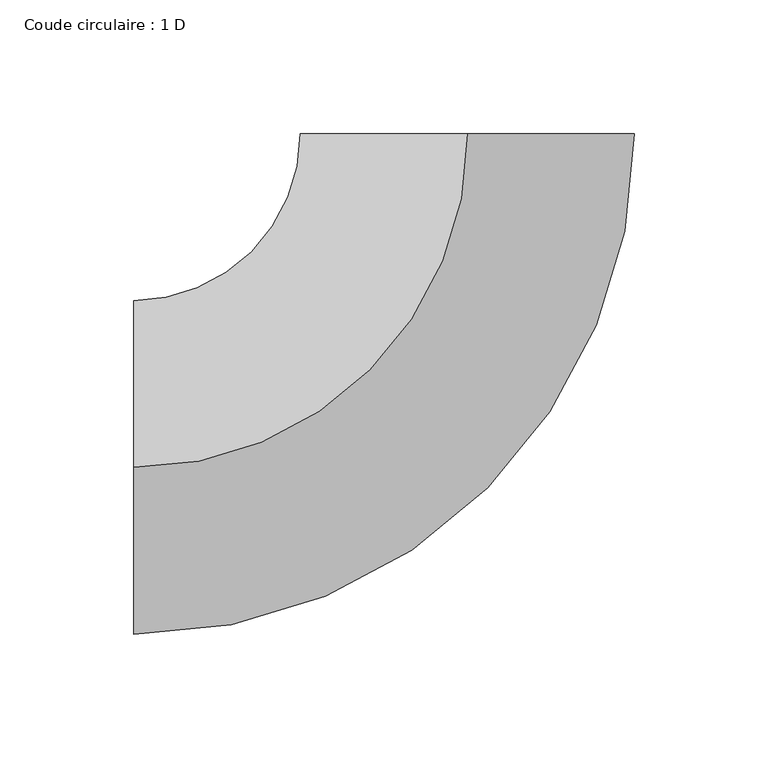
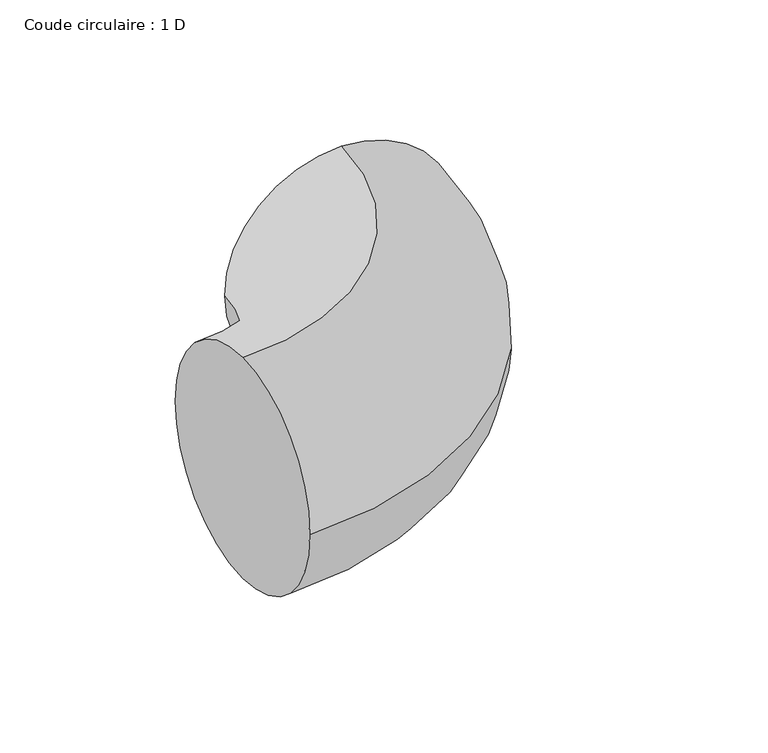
"""IFC4 building model written with IfcOpenShell, lengths in millimetres: duct fitting geometry, Coude circulaire : 1 D."""

import ifcopenshell
import ifcopenshell.guid

model = None  # the IFC model being written
_history = None  # IfcOwnerHistory: only IFC2X3 demands one
_inside = {}  # id of a spatial element -> (the spatial element, [elements in it])
_under = {}  # id of a project, library or spatial element -> (it, [spatial elements below it])
_declared = {}  # id of a project -> (the project, [libraries it declares])
_typed = {}  # id of a type object -> (the type object, [elements of that type])
_made_of = {}  # id of a material, layer set ... -> (it, [elements and type objects made of it])


def new_model(schema):
    """Start an empty IFC model of exactly this schema.

    Asked for "IFC4X3", IfcOpenShell would pick the latest addendum, in which some entities
    have other attributes; the version numbers below select the first issue.
    IFC2X3 requires an IfcOwnerHistory on every rooted entity: one is made here for all.
    """
    global model, _history
    if schema == "IFC4X3":
        model = ifcopenshell.file(schema_version=(4, 3, 0, 0))
    else:
        model = ifcopenshell.file(schema=schema)
    _inside.clear()
    _under.clear()
    _declared.clear()
    _typed.clear()
    _made_of.clear()
    _history = None
    if model.schema == "IFC2X3":
        org = make("IfcOrganization", Name="unknown")
        user = make(
            "IfcPersonAndOrganization",
            ThePerson=make("IfcPerson", FamilyName="unknown"),
            TheOrganization=org,
        )
        app = make(
            "IfcApplication",
            ApplicationDeveloper=org,
            Version="unknown",
            ApplicationFullName="unknown",
            ApplicationIdentifier="unknown",
        )
        _history = make(
            "IfcOwnerHistory",
            OwningUser=user,
            OwningApplication=app,
            ChangeAction="ADDED",
            CreationDate=0,
        )
    return model


def make(cls, **values):
    """One entity of the class cls with the attributes given. An attribute that is None is left unset."""
    return model.create_entity(
        cls, **{name: value for name, value in values.items() if value is not None}
    )


def rooted(cls, **values):
    """An entity with a GlobalId (a new one), such as an element, a storey or a relation."""
    return make(cls, GlobalId=ifcopenshell.guid.new(), OwnerHistory=_history, **values)


def si_unit(unit_type, name, prefix=None):
    """IfcSIUnit, for example si_unit("LENGTHUNIT", "METRE", prefix="MILLI")."""
    return make("IfcSIUnit", UnitType=unit_type, Prefix=prefix, Name=name)


def assignment(units):
    """IfcUnitAssignment: the units of a project."""
    return None if units is None else make("IfcUnitAssignment", Units=units)


def point(xyz):
    """IfcCartesianPoint."""
    return None if xyz is None else make("IfcCartesianPoint", Coordinates=xyz)


def direction(xyz):
    """IfcDirection."""
    return None if xyz is None else make("IfcDirection", DirectionRatios=xyz)


def frame(location, z_axis=None, x_axis=None):
    """IfcAxis2Placement3D, a coordinate frame: its origin and axes. An axis left out is left unset."""
    return make(
        "IfcAxis2Placement3D",
        Location=point(location),
        Axis=direction(z_axis),
        RefDirection=direction(x_axis),
    )


def origin():
    """The frame at (0, 0, 0) with its axes left unset."""
    return frame((0.0, 0.0, 0.0))


def place(relative_to, where):
    """IfcLocalPlacement: puts the frame where relative to a parent placement (None: the world)."""
    return make(
        "IfcLocalPlacement", PlacementRelTo=relative_to, RelativePlacement=where
    )


def context(
    kind, dimensions, precision=None, world=None, true_north=None, identifier=None
):
    """IfcGeometricRepresentationContext, for example the 3D "Model" context."""
    return make(
        "IfcGeometricRepresentationContext",
        ContextIdentifier=identifier,
        ContextType=kind,
        CoordinateSpaceDimension=dimensions,
        Precision=precision,
        WorldCoordinateSystem=world,
        TrueNorth=true_north,
    )


def project(units=None, contexts=None):
    """IfcProject with its units and contexts."""
    return rooted(
        "IfcProject",
        Name="project",
        RepresentationContexts=contexts,
        UnitsInContext=assignment(units),
    )


def spatial(cls, under=None, at=None, **own):
    """A site, building, storey or space (cls), placed at a placement, below another one or the project."""
    s = rooted(cls, ObjectPlacement=at, **own)
    if under is not None:
        _under.setdefault(under.id(), (under, []))[1].append(s)
    return s


def circle_curve(where, radius):
    """IfcCircle in the frame where."""
    return make("IfcCircle", Position=where, Radius=radius)


def ellipse_curve(where, semi_axis1, semi_axis2):
    """IfcEllipse in the frame where."""
    return make(
        "IfcEllipse", Position=where, SemiAxis1=semi_axis1, SemiAxis2=semi_axis2
    )


def trimmed(basis, trim1, trim2, sense, master):
    """IfcTrimmedCurve: the piece of a basis curve between two trims."""
    return make(
        "IfcTrimmedCurve",
        BasisCurve=basis,
        Trim1=trim1,
        Trim2=trim2,
        SenseAgreement=sense,
        MasterRepresentation=master,
    )


def shape(context_of_items, identifier, shape_type, items):
    """IfcShapeRepresentation: the items that make up one representation, for example the "Body"."""
    return make(
        "IfcShapeRepresentation",
        ContextOfItems=context_of_items,
        RepresentationIdentifier=identifier,
        RepresentationType=shape_type,
        Items=items,
    )


def source(mapping_origin, context_of_items, identifier, shape_type, items):
    """IfcRepresentationMap: a shape defined once, which mapped items show again and again."""
    return make(
        "IfcRepresentationMap",
        MappingOrigin=mapping_origin,
        MappedRepresentation=shape(context_of_items, identifier, shape_type, items),
    )


def transform(
    local_origin,
    x_axis=None,
    y_axis=None,
    z_axis=None,
    scale=None,
    scale2=None,
    scale3=None,
    uniform=True,
):
    """IfcCartesianTransformationOperator3D, or its non-uniform kind. x_axis, y_axis, z_axis: its Axis1, 2, 3."""
    if uniform:
        return make(
            "IfcCartesianTransformationOperator3D",
            Axis1=direction(x_axis),
            Axis2=direction(y_axis),
            LocalOrigin=point(local_origin),
            Scale=scale,
            Axis3=direction(z_axis),
        )
    return make(
        "IfcCartesianTransformationOperator3DnonUniform",
        Axis1=direction(x_axis),
        Axis2=direction(y_axis),
        LocalOrigin=point(local_origin),
        Scale=scale,
        Axis3=direction(z_axis),
        Scale2=scale2,
        Scale3=scale3,
    )


def mapped(mapping_source, mapping_target):
    """IfcMappedItem: shows the shape of a source again, moved by a transform."""
    return make(
        "IfcMappedItem", MappingSource=mapping_source, MappingTarget=mapping_target
    )


def made_of(thing, what):
    """Note that an element or type object is made of a material, layer set ...; save() writes the relation."""
    if what is not None:
        _made_of.setdefault(what.id(), (what, []))[1].append(thing)
    return thing


def element(
    cls,
    number,
    at=None,
    inside=None,
    cuts=None,
    type_object=None,
    material=None,
    context=None,
    identifier="Body",
    shape_type=None,
    held_by="IfcProductDefinitionShape",
    body=None,
    shapes=None,
    **own,
):
    """One element of the class cls, such as IfcWall. Its Tag is "e" and its number.

    at: its placement. inside: the storey or other place that contains it. cuts: it is an
    opening in that element (IfcRelVoidsElement). A single representation is given by context,
    identifier, shape_type and body (its items); several are given by shapes. held_by: the class
    of the entity that holds the representations. save() writes the other relations.
    """
    e = rooted(cls, Tag="e%d" % number, ObjectPlacement=at, **own)
    if body is not None:
        shapes = [shape(context, identifier, shape_type, body)]
    if shapes is not None:
        e.Representation = make(held_by, Representations=shapes)
    if inside is not None:
        _inside.setdefault(inside.id(), (inside, []))[1].append(e)
    if cuts is not None:
        rooted(
            "IfcRelVoidsElement", RelatingBuildingElement=cuts, RelatedOpeningElement=e
        )
    if type_object is not None:
        _typed.setdefault(type_object.id(), (type_object, []))[1].append(e)
    return made_of(e, material)


def aggregate(whole, parts):
    """IfcRelAggregates: a whole, such as a stair, and the parts it consists of."""
    return rooted("IfcRelAggregates", RelatingObject=whole, RelatedObjects=parts)


def save(model, path):
    """Write the relations noted so far, then the file.

    IfcRelAggregates (storeys below a building ...), IfcRelContainedInSpatialStructure (elements
    in a storey), IfcRelDefinesByType, IfcRelAssociatesMaterial and IfcRelDeclares: one each for
    every whole, place, type object, material and project.
    """
    for whole, parts in _under.values():
        aggregate(whole, parts)
    for where, things in _inside.values():
        rooted(
            "IfcRelContainedInSpatialStructure",
            RelatedElements=things,
            RelatingStructure=where,
        )
    for kind, things in _typed.values():
        rooted("IfcRelDefinesByType", RelatedObjects=things, RelatingType=kind)
    for what, things in _made_of.values():
        rooted("IfcRelAssociatesMaterial", RelatedObjects=things, RelatingMaterial=what)
    for by, libraries in _declared.values():
        rooted("IfcRelDeclares", RelatingContext=by, RelatedDefinitions=libraries)
    model.write(path)


def plane_surface(at):
    """IfcPlane: the flat surface through the origin of the frame at, square to its z axis."""
    return make("IfcPlane", Position=at)


def revolved_surface(curve, axis_point, axis_direction):
    """IfcSurfaceOfRevolution: the curve turned about the line through axis_point along axis_direction."""
    return make(
        "IfcSurfaceOfRevolution",
        SweptCurve=make("IfcArbitraryOpenProfileDef", ProfileType="CURVE", Curve=curve),
        AxisPosition=make("IfcAxis1Placement", Location=point(axis_point), Axis=direction(axis_direction)),
    )


def advanced_brep(points, edges, surfaces, faces):
    """IfcAdvancedBrep: a solid bounded by faces that lie on surfaces and meet in shared edges.

    An edge is (start, end): straight between two places in points (the first is 0);
    or (start, end, curve); or (start, end, curve, False) where it runs against its curve.
    A face is (place in surfaces, loops), or (place, loops, False) where it looks against
    its surface's normal. A loop lists edges by number (the first is 1), with a minus sign
    where the edge is run from its end to its start. The first loop is the outer one.
    """
    corners = [point(p) for p in points]
    vertices = [make("IfcVertexPoint", VertexGeometry=c) for c in corners]
    made = []
    for start, end, *more in edges:
        made.append(
            make(
                "IfcEdgeCurve",
                EdgeStart=vertices[start],
                EdgeEnd=vertices[end],
                EdgeGeometry=more[0] if more else make("IfcPolyline", Points=[corners[start], corners[end]]),
                SameSense=more[1] if len(more) > 1 else True,
            )
        )
    hull = []
    for where, loops, *sense in faces:
        bounds = []
        for j, loop in enumerate(loops):
            ring = [make("IfcOrientedEdge", EdgeElement=made[abs(k) - 1], Orientation=k > 0) for k in loop]
            bounds.append(
                make(
                    "IfcFaceOuterBound" if j == 0 else "IfcFaceBound",
                    Bound=make("IfcEdgeLoop", EdgeList=ring),
                    Orientation=True,
                )
            )
        hull.append(make("IfcAdvancedFace", Bounds=bounds, FaceSurface=surfaces[where], SameSense=sense[0] if sense else True))
    return make("IfcAdvancedBrep", Outer=make("IfcClosedShell", CfsFaces=hull))


def coude_circulaire_1_d_f5cf0ac1(model_context):
    return source(origin(), model_context, "Body", "AdvancedBrep", [
        advanced_brep(
        [(-125.0, 0.0, 62.5), (-125.0, 62.5, 0.0), (-125.0, 0.0, -62.5), (-125.0, -62.5, 0.0), (0.0, 125.0, 62.5), (62.5, 125.0, 0.0), (0.0, 125.0, -62.5), (-62.5, 125.0, 0.0)],
        [
            (0, 1, circle_curve(frame((-125.0, 0.0, 0.0), z_axis=(-1.0, 0.0, 0.0), x_axis=(0.0, 1.0, 0.0)), 62.5)),
            (1, 2, circle_curve(frame((-125.0, 0.0, 0.0), z_axis=(-1.0, 0.0, 0.0), x_axis=(0.0, 1.0, 0.0)), 62.5)),
            (2, 3, circle_curve(frame((-125.0, 0.0, 0.0), z_axis=(-1.0, 0.0, 0.0), x_axis=(0.0, 1.0, 0.0)), 62.5)),
            (3, 0, circle_curve(frame((-125.0, 0.0, 0.0), z_axis=(-1.0, 0.0, 0.0), x_axis=(0.0, 1.0, 0.0)), 62.5)),
            (4, 5, circle_curve(frame((0.0, 125.0, 0.0), z_axis=(0.0, 1.0, 0.0), x_axis=(-1.0, 0.0, 0.0)), 62.5)),
            (5, 6, circle_curve(frame((0.0, 125.0, 0.0), z_axis=(0.0, 1.0, 0.0), x_axis=(-1.0, 0.0, 0.0)), 62.5)),
            (6, 7, circle_curve(frame((0.0, 125.0, 0.0), z_axis=(0.0, 1.0, 0.0), x_axis=(-1.0, 0.0, 0.0)), 62.5)),
            (7, 4, circle_curve(frame((0.0, 125.0, 0.0), z_axis=(0.0, 1.0, 0.0), x_axis=(-1.0, 0.0, 0.0)), 62.5)),
            (7, 1, circle_curve(frame((-125.0, 125.0, 0.0), z_axis=(0.0, 0.0, -1.0), x_axis=(0.0, -1.0, 0.0)), 62.5)),
            (0, 4, circle_curve(frame((-125.0, 125.0, 62.5), z_axis=(0.0, 0.0, 1.0), x_axis=(0.0, -1.0, 0.0)), 125.0)),
            (6, 2, circle_curve(frame((-125.0, 125.0, -62.5), z_axis=(0.0, 0.0, -1.0), x_axis=(0.0, -1.0, 0.0)), 125.0)),
            (5, 3, circle_curve(frame((-125.0, 125.0, 0.0), z_axis=(0.0, 0.0, -1.0), x_axis=(0.0, -1.0, 0.0)), 187.5)),
        ],
        [
            plane_surface(frame((-125.0, 0.0, 0.0), z_axis=(-1.0, 0.0, 0.0), x_axis=(0.0, 0.0, 1.0))),
            plane_surface(frame((0.0, 125.0, 0.0), z_axis=(0.0, 1.0, 0.0), x_axis=(0.0, 0.0, 1.0))),
            revolved_surface(trimmed(ellipse_curve(frame((-125.0, 0.0, 0.0), z_axis=(-1.0, 0.0, 0.0), x_axis=(0.0, 1.0, 0.0)), 62.5, 62.5), [point((-125.0, 0.0, 62.5))], [point((-125.0, 62.5, 0.0))], True, "CARTESIAN"), (-125.0, 125.0, 0.0), (0.0, 0.0, 1.0)),
            revolved_surface(trimmed(ellipse_curve(frame((-125.0, 0.0, 0.0), z_axis=(-1.0, 0.0, 0.0), x_axis=(0.0, 1.0, 0.0)), 62.5, 62.5), [point((-125.0, 62.5, 0.0))], [point((-125.0, 0.0, -62.5))], True, "CARTESIAN"), (-125.0, 125.0, 0.0), (0.0, 0.0, 1.0)),
            revolved_surface(trimmed(ellipse_curve(frame((-125.0, 0.0, 0.0), z_axis=(-1.0, 0.0, 0.0), x_axis=(0.0, 1.0, 0.0)), 62.5, 62.5), [point((-125.0, 0.0, -62.5))], [point((-125.0, -62.5, 0.0))], True, "CARTESIAN"), (-125.0, 125.0, 0.0), (0.0, 0.0, 1.0)),
            revolved_surface(trimmed(ellipse_curve(frame((-125.0, 0.0, 0.0), z_axis=(-1.0, 0.0, 0.0), x_axis=(0.0, 1.0, 0.0)), 62.5, 62.5), [point((-125.0, -62.5, 0.0))], [point((-125.0, 0.0, 62.5))], True, "CARTESIAN"), (-125.0, 125.0, 0.0), (0.0, 0.0, 1.0)),
        ],
        [
            (0, [[1, 2, 3, 4]]),
            (1, [[5, 6, 7, 8]]),
            (2, [[9, -1, 10, -8]]),
            (3, [[11, -2, -9, -7]]),
            (4, [[12, -3, -11, -6]]),
            (5, [[-10, -4, -12, -5]]),
        ],
    ),
    ])


if __name__ == "__main__":
    model = new_model("IFC4")
    model_context = context("Model", 3, world=origin())
    ifc_project = project(units=[si_unit("LENGTHUNIT", "METRE", prefix="MILLI")], contexts=[model_context])
    site = spatial("IfcSite", under=ifc_project)
    building = spatial("IfcBuilding", under=site)
    placement = place(None, origin())
    coude_circulaire_1_d_shape = coude_circulaire_1_d_f5cf0ac1(model_context)
    element("IfcDuctFitting", 1, ObjectType="Coude circulaire : 1 D", at=placement, inside=building, context=model_context, shape_type="MappedRepresentation", body=[
        mapped(coude_circulaire_1_d_shape, transform((0.0, 0.0, 0.0), x_axis=(1.0, 0.0, 0.0), y_axis=(0.0, 1.0, 0.0), z_axis=(0.0, 0.0, 1.0))),
    ])
    save(model, "model.ifc")
